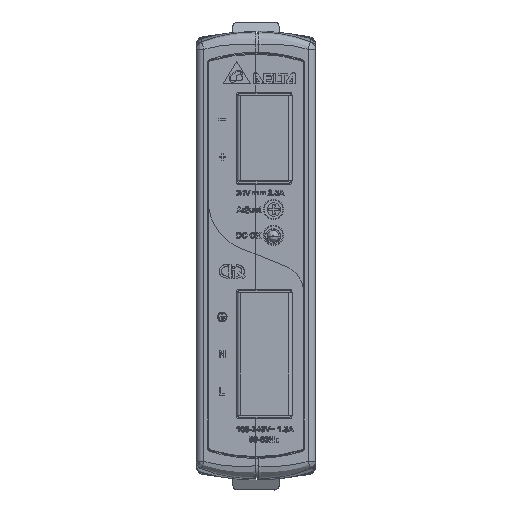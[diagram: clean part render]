
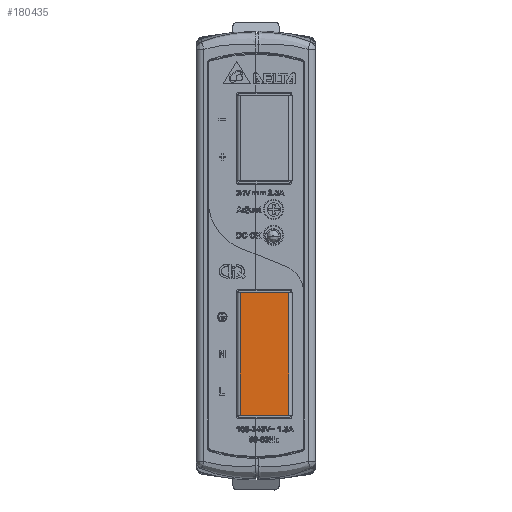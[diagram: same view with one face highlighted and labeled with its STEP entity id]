
A CAD part, top view. The second image highlights one B-rep face of the part: STEP entity #180435.
In plain terms, the highlighted planar face has unit normal (0, 0, 1) as drawn and (0, 1, 0) by its records, which use the part's own axes.
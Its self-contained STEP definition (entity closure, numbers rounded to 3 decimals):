
#178556=DIRECTION('',(-1.,0.,0.));
#178557=VECTOR('',#178556,13.);
#178558=CARTESIAN_POINT('',(6.5,4.9,0.));
#178559=LINE('',#178558,#178557);
#178741=DIRECTION('',(-1.,0.,0.));
#178742=VECTOR('',#178741,13.);
#178743=CARTESIAN_POINT('',(6.5,4.9,-33.));
#178744=LINE('',#178743,#178742);
#179469=DIRECTION('',(0.,0.,-1.));
#179470=VECTOR('',#179469,33.);
#179471=CARTESIAN_POINT('',(-6.5,4.9,0.));
#179472=LINE('',#179471,#179470);
#179476=DIRECTION('',(0.,0.,-1.));
#179477=VECTOR('',#179476,33.);
#179478=CARTESIAN_POINT('',(6.5,4.9,0.));
#179479=LINE('',#179478,#179477);
#179531=CARTESIAN_POINT('',(-6.5,4.9,-33.));
#179533=VERTEX_POINT('',#179531);
#179534=CARTESIAN_POINT('',(-6.5,4.9,0.));
#179535=VERTEX_POINT('',#179534);
#179538=CARTESIAN_POINT('',(6.5,4.9,0.));
#179539=VERTEX_POINT('',#179538);
#179540=CARTESIAN_POINT('',(6.5,4.9,-33.));
#179541=VERTEX_POINT('',#179540);
#180424=CARTESIAN_POINT('',(7.5,4.9,0.));
#180425=DIRECTION('',(0.,1.,0.));
#180426=DIRECTION('',(-1.,0.,0.));
#180427=AXIS2_PLACEMENT_3D('',#180424,#180425,#180426);
#180428=PLANE('',#180427);
#180429=ORIENTED_EDGE('',*,*,#179745,.T.);
#180430=ORIENTED_EDGE('',*,*,#179783,.F.);
#180431=ORIENTED_EDGE('',*,*,#180419,.F.);
#180432=ORIENTED_EDGE('',*,*,#179709,.T.);
#180433=EDGE_LOOP('',(#180429,#180430,#180431,#180432));
#180434=FACE_OUTER_BOUND('',#180433,.F.);
#179709=EDGE_CURVE('',#179539,#179535,#178559,.T.);
#179745=EDGE_CURVE('',#179535,#179533,#179472,.T.);
#179783=EDGE_CURVE('',#179541,#179533,#178744,.T.);
#180419=EDGE_CURVE('',#179539,#179541,#179479,.T.);
#180435=ADVANCED_FACE('',(#180434),#180428,.T.);
